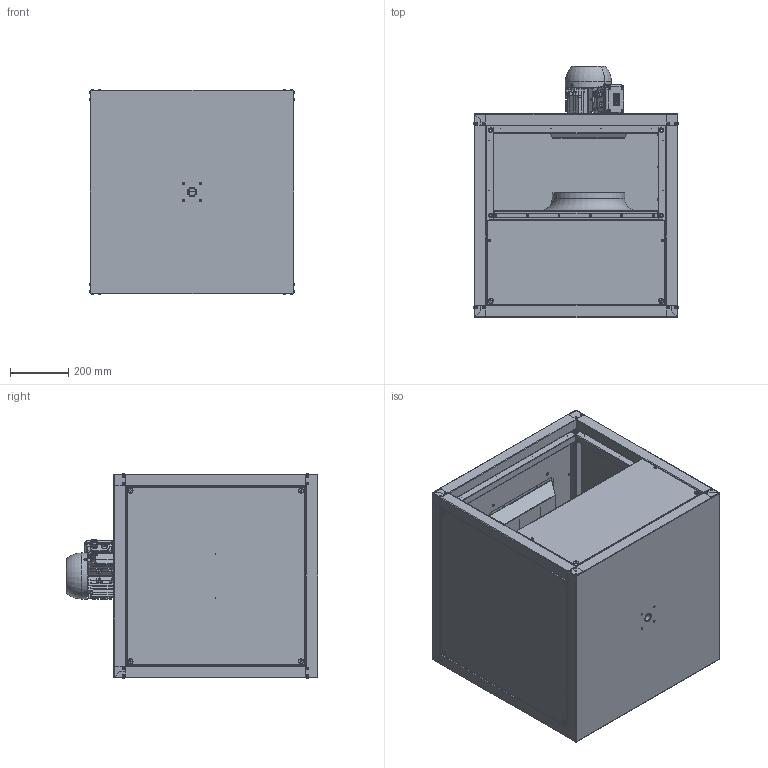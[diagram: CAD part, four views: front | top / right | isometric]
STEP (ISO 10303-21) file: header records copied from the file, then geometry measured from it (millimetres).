
FILE_DESCRIPTION (( 'STEP AP203' ), '1' );
FILE_NAME ('146679-00_MPC400D4F4TI30_step.step', '2018-10-09T10:05:06', ( '' ), ( '' ), 'SwSTEP 2.0', 'SolidWorks 2017', '' );
FILE_SCHEMA (( 'CONFIG_CONTROL_DESIGN' ));
Products named in the file (1): 146679-00_MPC400D4F4TI30_step
Bounding box: 702.6 x 863.1 x 702.6 mm (x, y, z)
Surface area: 6727440.2 mm2 (no closed solid volume)
Topology: 0 solids, 304 shells, 1847 faces, 8270 edges, 6523 vertices
Faces by surface type: plane 885, cylinder 537, torus 294, cone 71, bspline 60
Entity records: 89492 total; most frequent: CARTESIAN_POINT 23886, DIRECTION 13921, ORIENTED_EDGE 10737, EDGE_CURVE 8270, VERTEX_POINT 6523, AXIS2_PLACEMENT_3D 4659, LINE 4603, VECTOR 4603
